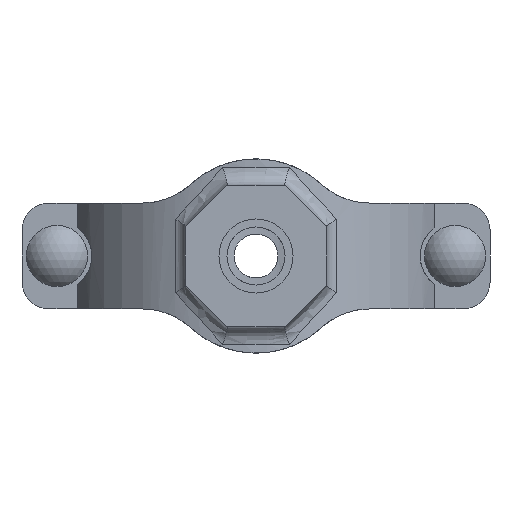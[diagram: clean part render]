
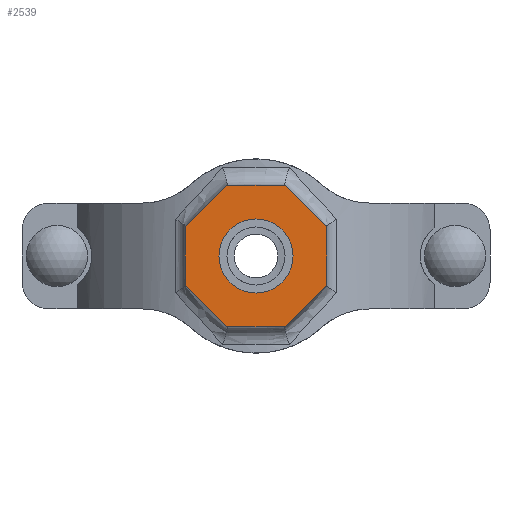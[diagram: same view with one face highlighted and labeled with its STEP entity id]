
A CAD part, front view. The second image highlights one B-rep face of the part: STEP entity #2539.
In plain terms, the highlighted planar face has unit normal (0, -1, 0) as drawn and (0, 1, 0) by its records, which use the part's own axes.
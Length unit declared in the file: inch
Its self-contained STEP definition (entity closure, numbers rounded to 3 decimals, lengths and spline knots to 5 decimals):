
#186=FACE_BOUND('',#459,.T.);
#307=FACE_OUTER_BOUND('',#458,.T.);
#458=EDGE_LOOP('',(#2138,#2139,#2140,#2141,#2142,#2143,#2144,#2145));
#459=EDGE_LOOP('',(#2146));
#594=LINE('',#4773,#780);
#597=LINE('',#4778,#783);
#599=LINE('',#4782,#785);
#601=LINE('',#4786,#787);
#641=LINE('',#5163,#827);
#643=LINE('',#5167,#829);
#645=LINE('',#5171,#831);
#647=LINE('',#5174,#833);
#780=VECTOR('',#3278,0.3937);
#783=VECTOR('',#3283,0.3937);
#785=VECTOR('',#3287,0.3937);
#787=VECTOR('',#3291,0.3937);
#827=VECTOR('',#3427,0.3937);
#829=VECTOR('',#3431,0.3937);
#831=VECTOR('',#3435,0.3937);
#833=VECTOR('',#3439,0.3937);
#919=CIRCLE('',#2802,0.525);
#1097=VERTEX_POINT('',#4770);
#1098=VERTEX_POINT('',#4772);
#1099=VERTEX_POINT('',#4776);
#1100=VERTEX_POINT('',#4780);
#1101=VERTEX_POINT('',#4784);
#1136=VERTEX_POINT('',#5016);
#1160=VERTEX_POINT('',#5162);
#1161=VERTEX_POINT('',#5166);
#1162=VERTEX_POINT('',#5170);
#1408=EDGE_CURVE('',#1098,#1097,#594,.T.);
#1411=EDGE_CURVE('',#1097,#1099,#597,.T.);
#1413=EDGE_CURVE('',#1099,#1100,#599,.T.);
#1415=EDGE_CURVE('',#1100,#1101,#601,.T.);
#1461=EDGE_CURVE('',#1136,#1136,#919,.T.);
#1495=EDGE_CURVE('',#1160,#1098,#641,.T.);
#1497=EDGE_CURVE('',#1161,#1160,#643,.T.);
#1499=EDGE_CURVE('',#1162,#1161,#645,.T.);
#1501=EDGE_CURVE('',#1101,#1162,#647,.T.);
#2138=ORIENTED_EDGE('',*,*,#1501,.T.);
#2139=ORIENTED_EDGE('',*,*,#1499,.T.);
#2140=ORIENTED_EDGE('',*,*,#1497,.T.);
#2141=ORIENTED_EDGE('',*,*,#1495,.T.);
#2142=ORIENTED_EDGE('',*,*,#1408,.T.);
#2143=ORIENTED_EDGE('',*,*,#1411,.T.);
#2144=ORIENTED_EDGE('',*,*,#1413,.T.);
#2145=ORIENTED_EDGE('',*,*,#1415,.T.);
#2146=ORIENTED_EDGE('',*,*,#1461,.T.);
#2280=PLANE('',#2825);
#2539=ADVANCED_FACE('',(#307,#186),#2280,.T.);
#2802=AXIS2_PLACEMENT_3D('',#5017,#3369,#3370);
#2825=AXIS2_PLACEMENT_3D('',#5175,#3440,#3441);
#3278=DIRECTION('',(0.,0.,1.));
#3283=DIRECTION('',(0.707,0.,0.707));
#3287=DIRECTION('',(1.,0.,0.));
#3291=DIRECTION('',(0.707,0.,-0.707));
#3369=DIRECTION('center_axis',(0.,-1.,0.));
#3370=DIRECTION('ref_axis',(-1.,0.,0.));
#3427=DIRECTION('',(-0.707,0.,0.707));
#3431=DIRECTION('',(-1.,0.,0.));
#3435=DIRECTION('',(-0.707,0.,-0.707));
#3439=DIRECTION('',(0.,0.,-1.));
#3440=DIRECTION('center_axis',(0.,1.,0.));
#3441=DIRECTION('ref_axis',(0.,0.,1.));
#4770=CARTESIAN_POINT('',(-1.,3.56,0.41421));
#4772=CARTESIAN_POINT('',(-1.,3.56,-0.41421));
#4773=CARTESIAN_POINT('',(-1.,3.56,0.41421));
#4776=CARTESIAN_POINT('',(-0.41421,3.56,1.));
#4778=CARTESIAN_POINT('',(-0.41421,3.56,1.));
#4780=CARTESIAN_POINT('',(0.41421,3.56,1.));
#4782=CARTESIAN_POINT('',(0.41421,3.56,1.));
#4784=CARTESIAN_POINT('',(1.,3.56,0.41421));
#4786=CARTESIAN_POINT('',(1.,3.56,0.41421));
#5016=CARTESIAN_POINT('',(0.525,3.56,0.));
#5017=CARTESIAN_POINT('Origin',(0.,3.56,0.));
#5162=CARTESIAN_POINT('',(-0.41421,3.56,-1.));
#5163=CARTESIAN_POINT('',(-1.,3.56,-0.41421));
#5166=CARTESIAN_POINT('',(0.41421,3.56,-1.));
#5167=CARTESIAN_POINT('',(-0.41421,3.56,-1.));
#5170=CARTESIAN_POINT('',(1.,3.56,-0.41421));
#5171=CARTESIAN_POINT('',(0.41421,3.56,-1.));
#5174=CARTESIAN_POINT('',(1.,3.56,-0.41421));
#5175=CARTESIAN_POINT('Origin',(0.,3.56,0.));
